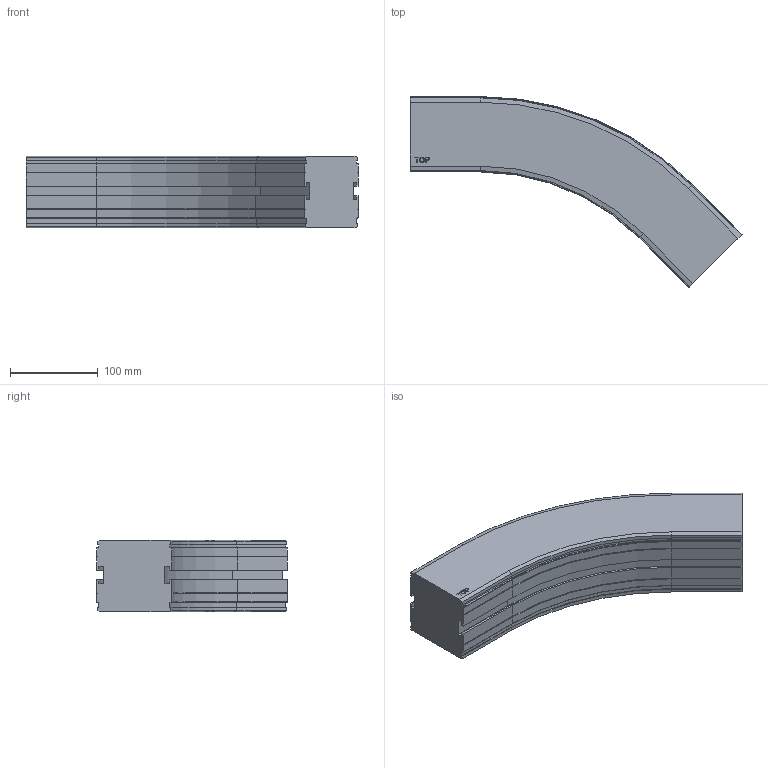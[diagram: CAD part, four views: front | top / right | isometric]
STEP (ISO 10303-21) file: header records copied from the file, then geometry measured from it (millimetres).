
FILE_DESCRIPTION((''),'2;1');
FILE_NAME('C:\Vault Klient\Projekt\Koncept konstruktion\Serie 830 Balk\830-5200.stp','2009-11-27T09:35:03',('Mathias'),(''),'Autodesk Inventor 2010','Autodesk Inventor 2010','');
FILE_SCHEMA(('AUTOMOTIVE_DESIGN { 1 0 10303 214 1 1 1 1 }'));
Length unit declared in the file: millimetre
Products named in the file (1): 830-5200
Bounding box: 379.11 x 217.84 x 81.5 mm (x, y, z)
Volume: 2629634.2 mm3; surface area: 174950.3 mm2
Topology: 1 solids, 1 shells, 169 faces, 446 edges, 284 vertices
Faces by surface type: plane 109, cylinder 30, bspline 14, cone 12, torus 4
Entity records: 5295 total; most frequent: CARTESIAN_POINT 1094, ORIENTED_EDGE 892, DIRECTION 802, EDGE_CURVE 446, VECTOR 346, LINE 346, VERTEX_POINT 284, AXIS2_PLACEMENT_3D 228
